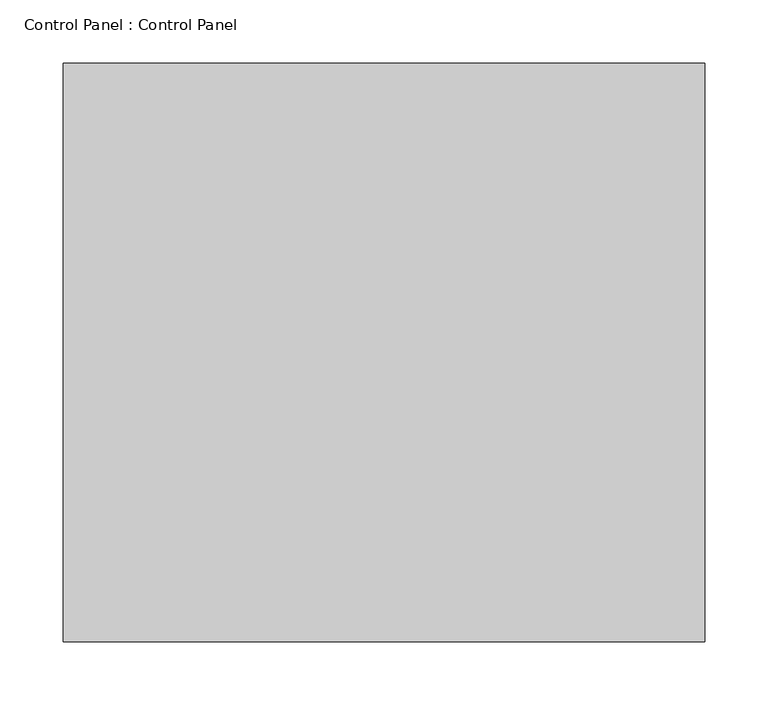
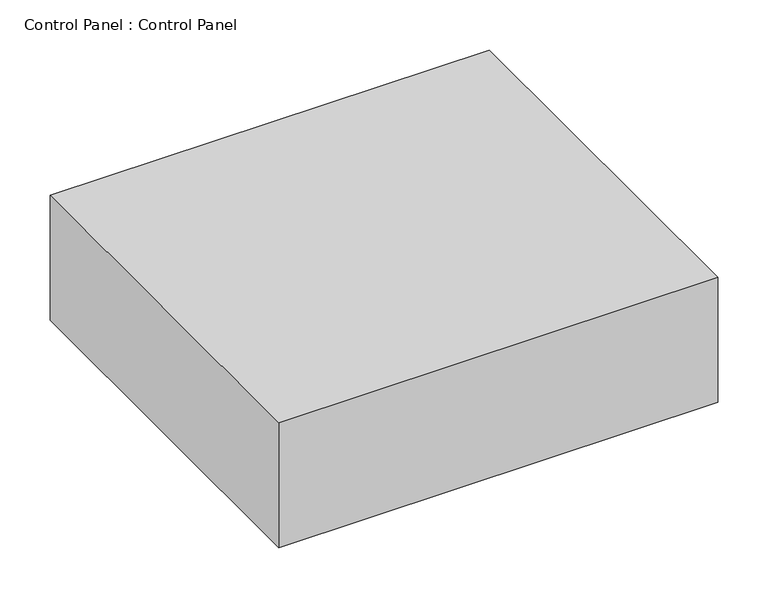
"""IFC4 building model written with IfcOpenShell, lengths in millimetres: proxy geometry, Control Panel : Control Panel."""

from ifc_helpers import new_model, si_unit, origin, origin_with_axes, place, context, project, spatial, polyline, outline, extrude, source, transform, mapped, element, save


def control_panel_control_panel_d1b1cf04(model_context):
    return source(origin(), model_context, "Body", "SweptSolid", [
        extrude(outline(polyline([(253.5153326, 228.6), (253.5153326, -228.6), (-253.5153326, -228.6), (-253.5153326, 228.6), (253.5153326, 228.6)])), origin_with_axes(), (0.0, 0.0, 1.0), 152.4),
    ])


if __name__ == "__main__":
    model = new_model("IFC4")
    model_context = context("Model", 3, world=origin())
    ifc_project = project(units=[si_unit("LENGTHUNIT", "METRE", prefix="MILLI")], contexts=[model_context])
    site = spatial("IfcSite", under=ifc_project)
    building = spatial("IfcBuilding", under=site)
    placement = place(None, origin())
    control_panel_control_panel_shape = control_panel_control_panel_d1b1cf04(model_context)
    element("IfcBuildingElementProxy", 1, Name="Control Panel : Control Panel", ObjectType="Control Panel : Control Panel", at=placement, inside=building, context=model_context, shape_type="MappedRepresentation", body=[
        mapped(control_panel_control_panel_shape, transform((0.0, 0.0, 0.0), x_axis=(1.0, 0.0, 0.0), y_axis=(0.0, 1.0, 0.0), z_axis=(0.0, 0.0, 1.0))),
    ])
    save(model, "model.ifc")
